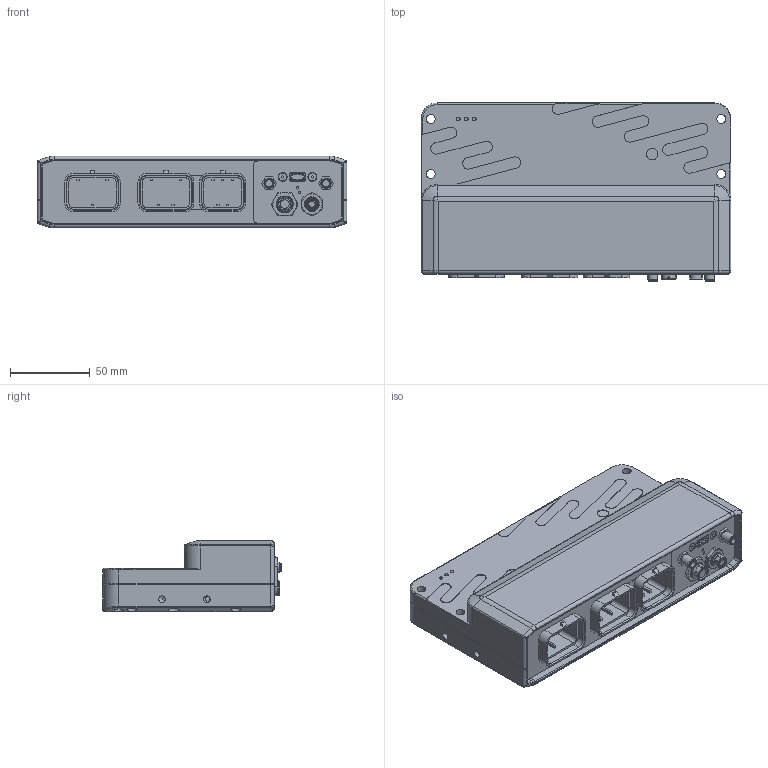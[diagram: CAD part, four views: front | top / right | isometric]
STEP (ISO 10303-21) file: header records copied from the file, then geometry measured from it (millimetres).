
FILE_DESCRIPTION(/* description */ ('STEP AP242 Edition 2','CAx-IF Rec.Pracs.---Representation and Presentation of Product Manufacturing Information (PMI)---4.0---2014-10-13','CAx-IF Rec.Pracs.---3D Tessellated Geometry---0.4---2014-09-14','2;1','CAx-IF Rec.Pracs.---User Defined Attributes---1.5---2016-08-15'),/* implementation_level */ '2;1');
FILE_NAME(/* name */ 'Voodoo Pro V2 Customer Model - Voodoo Pro 2 External Model',/* time_stamp */ '2026-04-17T02:39:39Z',/* author */ (''),/* organization */ (''),/* preprocessor_version */ 'ST-DEVELOPER v20',/* originating_system */ 'ONSHAPE BY PTC INC, 1.213',/* authorisation */ ' ');
FILE_SCHEMA (('AP242_MANAGED_MODEL_BASED_3D_ENGINEERING_MIM_LF { 1 0 10303 442 3 1 4 }'));
Length unit declared in the file: metre
Products named in the file (1): Voodoo Pro 2 External Model
Bounding box: 193.5 x 111.4 x 45 mm (x, y, z)
Volume: 677096.6 mm3; surface area: 82658.8 mm2
Topology: 1 solids, 12 shells, 966 faces, 2460 edges, 1581 vertices
Faces by surface type: plane 402, cylinder 373, cone 72, torus 67, bspline 41, sphere 11
Full cylindrical faces by diameter (mm): 1 x1, 1.4 x3, 1.5 x1, 1.6 x1, 2.2 x3, 3 x2, 3.2 x2, 4.2 x8, 4.3 x2, 5 x2, 5.3 x2, 5.45 x7, 5.5 x5, 6 x2, 6.3 x8, 7.1 x1, 7.2 x2, 7.8 x1, 9.2 x1, 9.4 x1
Entity records: 35317 total; most frequent: CARTESIAN_POINT 9141, DIRECTION 4817, ORIENTED_EDGE 4564, EDGE_CURVE 2282, AXIS2_PLACEMENT_3D 1837, VERTEX_POINT 1516, FACE_BOUND 1160, EDGE_LOOP 1155
